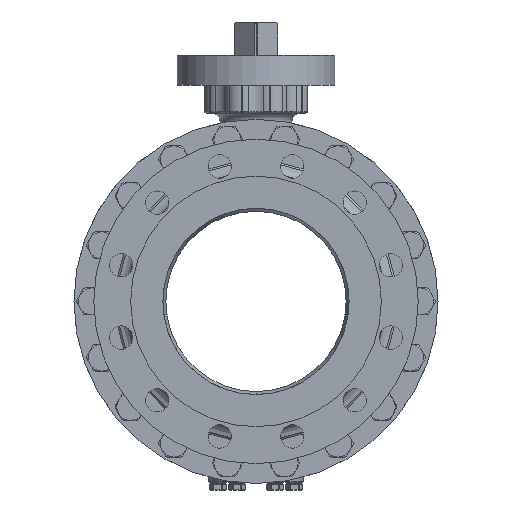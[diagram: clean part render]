
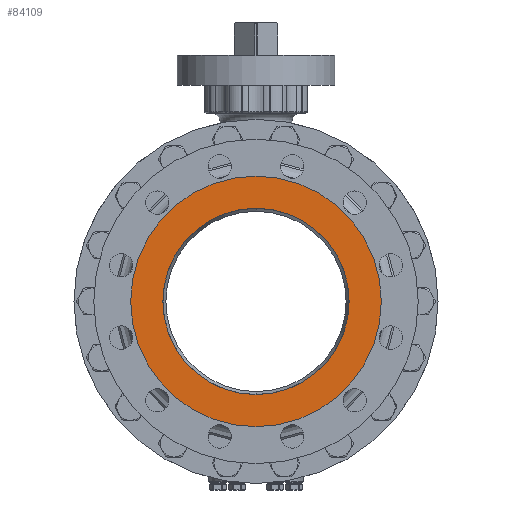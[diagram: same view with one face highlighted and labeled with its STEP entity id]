
A CAD part, left-side view. The second image highlights one B-rep face of the part: STEP entity #84109.
In plain terms, the highlighted planar face has unit normal (-1, 0, 0).
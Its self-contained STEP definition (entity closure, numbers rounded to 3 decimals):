
#10203=CARTESIAN_POINT('',(-228.5,0.,0.));
#10204=DIRECTION('',(1.,0.,0.));
#10205=DIRECTION('',(0.,0.,1.));
#10206=AXIS2_PLACEMENT_3D('',#10203,#10204,#10205);
#10208=CARTESIAN_POINT('',(-228.5,0.,0.));
#10209=DIRECTION('',(1.,0.,0.));
#10210=DIRECTION('',(0.,0.,-1.));
#10211=AXIS2_PLACEMENT_3D('',#10208,#10209,#10210);
#10213=CARTESIAN_POINT('',(-228.5,0.,0.));
#10214=DIRECTION('',(1.,0.,0.));
#10215=DIRECTION('',(0.,0.,1.));
#10216=AXIS2_PLACEMENT_3D('',#10213,#10214,#10215);
#10218=CARTESIAN_POINT('',(-228.5,0.,0.));
#10219=DIRECTION('',(-1.,0.,0.));
#10220=DIRECTION('',(0.,0.,1.));
#10221=AXIS2_PLACEMENT_3D('',#10218,#10219,#10220);
#59874=CARTESIAN_POINT('',(-228.5,0.,103.35));
#59876=VERTEX_POINT('',#59874);
#59878=CARTESIAN_POINT('',(-228.5,0.,-103.35));
#59880=VERTEX_POINT('',#59878);
#59909=CARTESIAN_POINT('',(-228.5,0.,139.));
#59910=CARTESIAN_POINT('',(-228.5,0.,-139.));
#59911=VERTEX_POINT('',#59909);
#59912=VERTEX_POINT('',#59910);
#84093=CARTESIAN_POINT('',(-228.5,0.,0.));
#84094=DIRECTION('',(-1.,0.,0.));
#84095=DIRECTION('',(0.,0.,-1.));
#84096=AXIS2_PLACEMENT_3D('',#84093,#84094,#84095);
#84097=PLANE('',#84096);
#84099=ORIENTED_EDGE('',*,*,#84098,.T.);
#84100=ORIENTED_EDGE('',*,*,#84083,.T.);
#84101=EDGE_LOOP('',(#84099,#84100));
#84102=FACE_OUTER_BOUND('',#84101,.F.);
#84104=ORIENTED_EDGE('',*,*,#84103,.F.);
#84106=ORIENTED_EDGE('',*,*,#84105,.T.);
#84107=EDGE_LOOP('',(#84104,#84106));
#84108=FACE_BOUND('',#84107,.F.);
#84109=ADVANCED_FACE('',(#84102,#84108),#84097,.T.);
#10207=CIRCLE('',#10206,139.);
#10212=CIRCLE('',#10211,139.);
#10217=CIRCLE('',#10216,103.35);
#10222=CIRCLE('',#10221,103.35);
#84083=EDGE_CURVE('',#59912,#59911,#10212,.T.);
#84098=EDGE_CURVE('',#59911,#59912,#10207,.T.);
#84103=EDGE_CURVE('',#59876,#59880,#10217,.T.);
#84105=EDGE_CURVE('',#59876,#59880,#10222,.T.);
